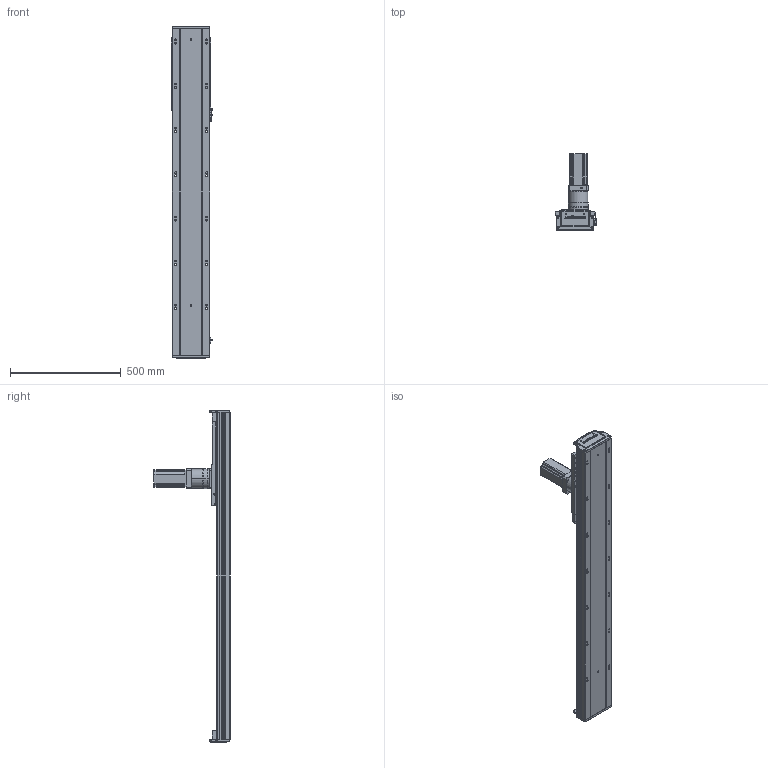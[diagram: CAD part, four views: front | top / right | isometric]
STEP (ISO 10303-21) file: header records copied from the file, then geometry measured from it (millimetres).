
FILE_DESCRIPTION (( 'STEP AP203' ), '1' );
FILE_NAME ('RY170-C-1000-UK.SLDASM_1000.step', '2021-03-03T00:46:17', ( '盈信电脑' ), ( '东莞市道滘镇水果街19号' ), 'SwSTEP 2.0', 'SolidWorks 2012', '' );
FILE_SCHEMA (( 'CONFIG_CONTROL_DESIGN' ));
Products named in the file (13): RY170-C-1000-UK.SLDASM_1000; 左旋斜齿齿轮_M2_22齿_内孔20; RY170-喘沭賑輸; RY170-喘沭滅袉蝶輸; 怢湛750W萇儂ㄗ80遺ㄘ; RY170-喘謫萇儂覃誹啣; TF080等撰; RY170綴裔啣ㄗ蜊秶ㄘ; 覜茼ん672; RY170外置感应片(200共用）; RY170-1000-喘沭耀郪絳寢EGH20CA_1000; 絳寢賑輸EGH20CA; RY170-1000齿条模组型材底座_1000
Assembly tree (22 placements, depth 2):
  RY170-C-1000-UK.SLDASM_1000
    RY170-1000齿条模组型材底座_1000
    絳寢賑輸EGH20CA  x6
    RY170-1000-喘沭耀郪絳寢EGH20CA_1000  x2
    RY170綴裔啣ㄗ蜊秶ㄘ  x2
    覜茼ん672  x3
    RY170外置感应片(200共用）
    RY170-喘謫萇儂覃誹啣
    怢湛750W萇儂ㄗ80遺ㄘ
    RY170-喘沭滅袉蝶輸  x2
    TF080等撰
    左旋斜齿齿轮_M2_22齿_内孔20
    RY170-喘沭賑輸
Bounding box: 188.7 x 343.5 x 1500 mm (x, y, z)
Volume: 9549957.1 mm3; surface area: 2245980.5 mm2
Topology: 24 solids, 24 shells, 3819 faces, 10462 edges, 6750 vertices
Faces by surface type: plane 1945, cylinder 1576, cone 244, bspline 50, torus 4
Entity records: 81080 total; most frequent: CARTESIAN_POINT 17726, ORIENTED_EDGE 13014, DIRECTION 12848, EDGE_CURVE 6507, AXIS2_PLACEMENT_3D 4661, VERTEX_POINT 4238, LINE 3526, VECTOR 3526
